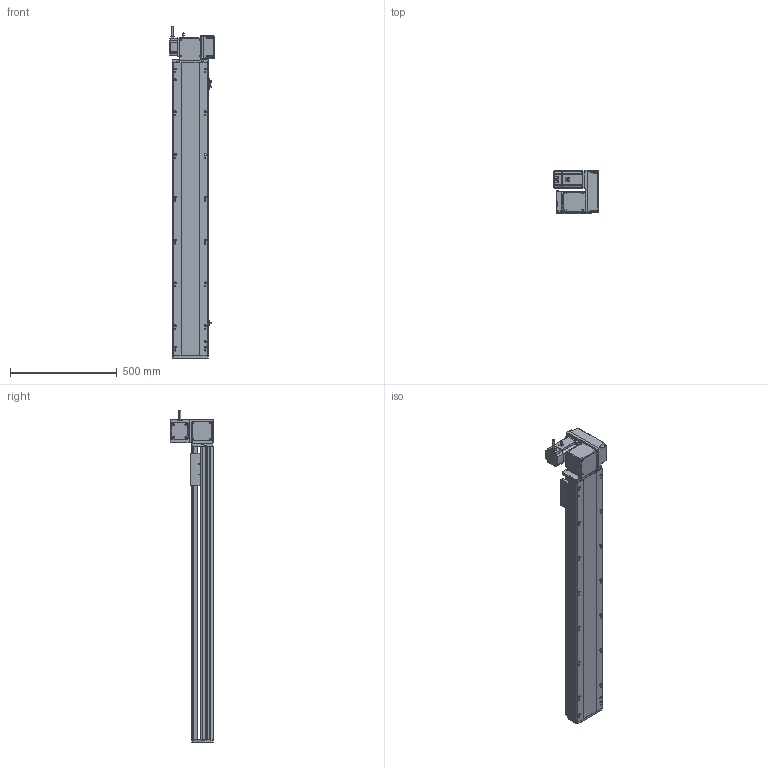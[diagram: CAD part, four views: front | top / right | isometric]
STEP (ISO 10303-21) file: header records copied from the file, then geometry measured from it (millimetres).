
FILE_DESCRIPTION (( 'STEP AP214' ), '1' );
FILE_NAME ('RTB17S-XX-1100-RW-M75-C4.STEP', '2025-12-12T02:36:45', ( '' ), ( '' ), 'SwSTEP 2.0', 'SolidWorks 2018', '' );
FILE_SCHEMA (( 'AUTOMOTIVE_DESIGN' ));
Length unit declared in the file: millimetre
Products named in the file (15): RTB17S-L-007奻裔^RTB17S-XX-XX-RW-M75-C4; RTB17S-賑釱^RTB17S-XX-XX-RW-M75-C4; RTB17S-L-004-賑釱^RTB17S-賑釱_RTB17S-XX-XX-RW-M75-C4; RTB17S-XX-1100-RW-M75-C4; RMP17S-L-014-T20-P75--々湍釱^RTB17S-RW-々湍釱蚾饜-750W_RTB17S-XX-XX-RW-M75-C4; RTH13-BL-012覜茼え俋离^RTB17S-賑釱_RTB17S-XX-XX-RW-M75-C4; 750W萇儂^RTB17S-XX-XX-RW-M75-C4; RTB22S-GY-018P^RTB17S-RW-々湍釱蚾饜-750W_RTB17S-XX-XX-RW-M75-C4; RTB17S-L-001-耜醱啣^RTB17S-XX-XX-RW-M75-C4; RTB22S-GY-005P^RTB17S-RW-々湍釱蚾饜-750W_RTB17S-XX-XX-RW-M75-C4; RTB22S-GY-008-M75--萇儂啣^RTB17S-RW-々湍釱蚾饜-750W_RTB17S-XX-XX-RW-M75-C4; RTB17-R-011菁釱^RTB17S-XX-XX-RW-M75-C4; RTB22S-GY-017P^RTB17S-RW-々湍釱蚾饜-750W_RTB17S-XX-XX-RW-M75-C4; RTB17S-RW-々湍釱蚾饜-750W^RTB17S-XX-XX-RW-M75-C4; EE672^RTB17S-XX-XX-RW-M75-C4
Assembly tree (17 placements, depth 3):
  RTB17S-XX-1100-RW-M75-C4
    RTB17-R-011菁釱^RTB17S-XX-XX-RW-M75-C4
    EE672^RTB17S-XX-XX-RW-M75-C4  x3
    RTB17S-L-001-耜醱啣^RTB17S-XX-XX-RW-M75-C4
    RTB17S-賑釱^RTB17S-XX-XX-RW-M75-C4
      RTB17S-L-004-賑釱^RTB17S-賑釱_RTB17S-XX-XX-RW-M75-C4
      RTH13-BL-012覜茼え俋离^RTB17S-賑釱_RTB17S-XX-XX-RW-M75-C4
    RTB17S-L-007奻裔^RTB17S-XX-XX-RW-M75-C4
    750W萇儂^RTB17S-XX-XX-RW-M75-C4
    RTB17S-RW-々湍釱蚾饜-750W^RTB17S-XX-XX-RW-M75-C4
      RMP17S-L-014-T20-P75--々湍釱^RTB17S-RW-々湍釱蚾饜-750W_RTB17S-XX-XX-RW-M75-C4
      RTB22S-GY-005P^RTB17S-RW-々湍釱蚾饜-750W_RTB17S-XX-XX-RW-M75-C4
      RTB22S-GY-017P^RTB17S-RW-々湍釱蚾饜-750W_RTB17S-XX-XX-RW-M75-C4  x2
      RTB22S-GY-008-M75--萇儂啣^RTB17S-RW-々湍釱蚾饜-750W_RTB17S-XX-XX-RW-M75-C4
      RTB22S-GY-018P^RTB17S-RW-々湍釱蚾饜-750W_RTB17S-XX-XX-RW-M75-C4
Bounding box: 207.4 x 201.5 x 1552.2 mm (x, y, z)
Volume: 12823633.8 mm3; surface area: 2194651.3 mm2
Topology: 17 solids, 17 shells, 2105 faces, 5836 edges, 3770 vertices
Faces by surface type: plane 972, cylinder 717, bspline 294, cone 110, sphere 8, torus 4
Entity records: 58870 total; most frequent: CARTESIAN_POINT 17300, ORIENTED_EDGE 8516, DIRECTION 7952, EDGE_CURVE 4258, AXIS2_PLACEMENT_3D 2790, VERTEX_POINT 2774, LINE 2372, VECTOR 2372
